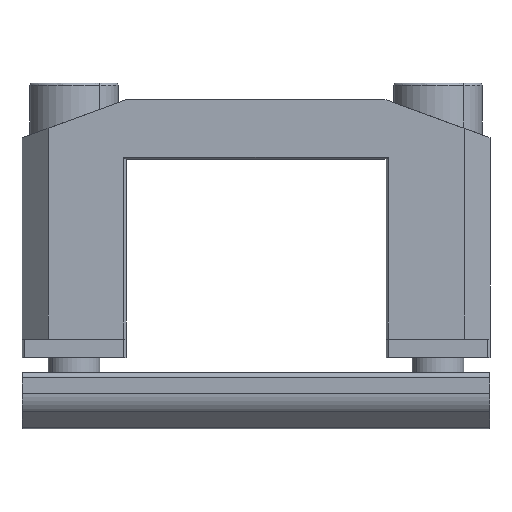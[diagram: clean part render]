
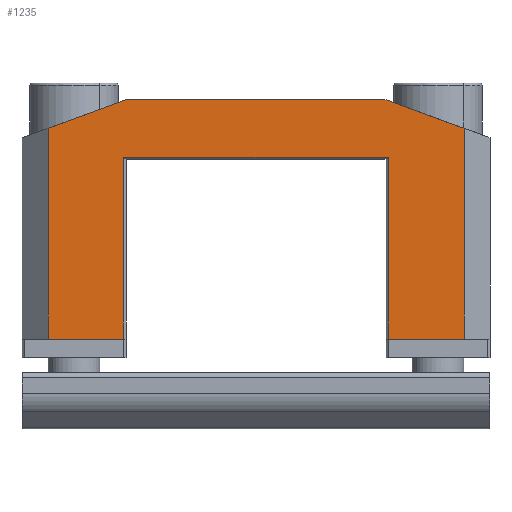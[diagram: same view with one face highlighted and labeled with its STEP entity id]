
A CAD part, front view. The second image highlights one B-rep face of the part: STEP entity #1235.
In plain terms, the highlighted planar face has unit normal (0, -1, 0).
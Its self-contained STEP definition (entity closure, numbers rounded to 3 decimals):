
#26 = ORIENTED_EDGE ( 'NONE', *, *, #1216, .F. ) ;
#703 = VERTEX_POINT ( 'NONE', #7919 ) ;
#866 = CARTESIAN_POINT ( 'NONE',  ( -39.171, 22.779, -10.6 ) ) ;
#880 = EDGE_CURVE ( 'NONE', #13790, #8048, #17649, .T. ) ;
#1216 = EDGE_CURVE ( 'NONE', #4108, #25195, #2591, .T. ) ;
#1235 = ADVANCED_FACE ( 'NONE', ( #7293 ), #9488, .T. ) ;
#1581 = ORIENTED_EDGE ( 'NONE', *, *, #10336, .T. ) ;
#1619 = CARTESIAN_POINT ( 'NONE',  ( -42.971, 22.779, 12.4 ) ) ;
#1776 = CARTESIAN_POINT ( 'NONE',  ( -13.771, 22.779, 6.9 ) ) ;
#2321 = LINE ( 'NONE', #25939, #7657 ) ;
#2330 = CARTESIAN_POINT ( 'NONE',  ( -26.471, 22.779, -10.6 ) ) ;
#2411 = CARTESIAN_POINT ( 'NONE',  ( -6.471, 22.779, 9.67 ) ) ;
#2469 = DIRECTION ( 'NONE',  ( 0., 0., -1. ) ) ;
#2509 = VERTEX_POINT ( 'NONE', #866 ) ;
#2591 = LINE ( 'NONE', #16278, #12640 ) ;
#2606 = ORIENTED_EDGE ( 'NONE', *, *, #20682, .T. ) ;
#2853 = VECTOR ( 'NONE', #16366, 1000. ) ;
#3041 = CARTESIAN_POINT ( 'NONE',  ( -6.471, 22.779, -10.6 ) ) ;
#3908 = CARTESIAN_POINT ( 'NONE',  ( -46.471, 22.779, -0.404 ) ) ;
#3924 = LINE ( 'NONE', #6677, #8648 ) ;
#4084 = EDGE_CURVE ( 'NONE', #8048, #25195, #5193, .T. ) ;
#4108 = VERTEX_POINT ( 'NONE', #21184 ) ;
#4307 = ORIENTED_EDGE ( 'NONE', *, *, #4084, .T. ) ;
#4974 = DIRECTION ( 'NONE',  ( 0., -1., 0. ) ) ;
#5193 = LINE ( 'NONE', #9110, #15854 ) ;
#5262 = LINE ( 'NONE', #3908, #9943 ) ;
#5381 = VERTEX_POINT ( 'NONE', #1776 ) ;
#5570 = VECTOR ( 'NONE', #12139, 1000. ) ;
#5664 = LINE ( 'NONE', #16497, #10338 ) ;
#5937 = DIRECTION ( 'NONE',  ( 0., 0., -1. ) ) ;
#6180 = DIRECTION ( 'NONE',  ( 1., 0., 0. ) ) ;
#6231 = CARTESIAN_POINT ( 'NONE',  ( -39.171, 22.779, 6.9 ) ) ;
#6389 = ORIENTED_EDGE ( 'NONE', *, *, #19115, .F. ) ;
#6677 = CARTESIAN_POINT ( 'NONE',  ( -43.971, 22.779, 10.58 ) ) ;
#7293 = FACE_OUTER_BOUND ( 'NONE', #10181, .T. ) ;
#7327 = VERTEX_POINT ( 'NONE', #17189 ) ;
#7657 = VECTOR ( 'NONE', #23859, 1000. ) ;
#7919 = CARTESIAN_POINT ( 'NONE',  ( -46.471, 22.779, -10.6 ) ) ;
#8048 = VERTEX_POINT ( 'NONE', #2411 ) ;
#8636 = CARTESIAN_POINT ( 'NONE',  ( -40.471, 22.779, -10.6 ) ) ;
#8643 = EDGE_CURVE ( 'NONE', #7327, #4108, #3924, .T. ) ;
#8648 = VECTOR ( 'NONE', #14747, 1000. ) ;
#8658 = ORIENTED_EDGE ( 'NONE', *, *, #880, .T. ) ;
#8911 = ORIENTED_EDGE ( 'NONE', *, *, #14088, .T. ) ;
#9110 = CARTESIAN_POINT ( 'NONE',  ( -39.579, 22.779, 21.72 ) ) ;
#9468 = CARTESIAN_POINT ( 'NONE',  ( -13.771, 22.779, -10.6 ) ) ;
#9488 = PLANE ( 'NONE',  #17503 ) ;
#9943 = VECTOR ( 'NONE', #5937, 1000. ) ;
#10181 = EDGE_LOOP ( 'NONE', ( #4307, #26, #15025, #18209, #20287, #6389, #2606, #1581, #8911, #8658 ) ) ;
#10336 = EDGE_CURVE ( 'NONE', #5381, #21622, #5664, .T. ) ;
#10338 = VECTOR ( 'NONE', #2469, 1000. ) ;
#10655 = CARTESIAN_POINT ( 'NONE',  ( -6.471, 22.779, 0.9 ) ) ;
#10781 = VECTOR ( 'NONE', #14698, 1000. ) ;
#11041 = DIRECTION ( 'NONE',  ( -0.94, 0., 0.342 ) ) ;
#12139 = DIRECTION ( 'NONE',  ( 0., 0., -1. ) ) ;
#12339 = VECTOR ( 'NONE', #12633, 1000. ) ;
#12387 = EDGE_CURVE ( 'NONE', #7327, #703, #5262, .T. ) ;
#12633 = DIRECTION ( 'NONE',  ( 0., 0., 1. ) ) ;
#12640 = VECTOR ( 'NONE', #6180, 1000. ) ;
#13014 = VERTEX_POINT ( 'NONE', #6231 ) ;
#13790 = VERTEX_POINT ( 'NONE', #3041 ) ;
#14088 = EDGE_CURVE ( 'NONE', #21622, #13790, #18206, .T. ) ;
#14698 = DIRECTION ( 'NONE',  ( 1., 0., 0. ) ) ;
#14747 = DIRECTION ( 'NONE',  ( 0.94, 0., 0.342 ) ) ;
#15025 = ORIENTED_EDGE ( 'NONE', *, *, #8643, .F. ) ;
#15298 = CARTESIAN_POINT ( 'NONE',  ( -13.971, 22.779, 12.4 ) ) ;
#15854 = VECTOR ( 'NONE', #11041, 1000. ) ;
#16127 = LINE ( 'NONE', #8636, #10781 ) ;
#16246 = LINE ( 'NONE', #22083, #5570 ) ;
#16278 = CARTESIAN_POINT ( 'NONE',  ( -26.471, 22.779, 12.4 ) ) ;
#16366 = DIRECTION ( 'NONE',  ( 1., 0., 0. ) ) ;
#16497 = CARTESIAN_POINT ( 'NONE',  ( -13.771, 22.779, 0.9 ) ) ;
#17104 = EDGE_CURVE ( 'NONE', #703, #2509, #16127, .T. ) ;
#17189 = CARTESIAN_POINT ( 'NONE',  ( -46.471, 22.779, 9.67 ) ) ;
#17503 = AXIS2_PLACEMENT_3D ( 'NONE', #1619, #4974, #24949 ) ;
#17649 = LINE ( 'NONE', #10655, #12339 ) ;
#18206 = LINE ( 'NONE', #2330, #2853 ) ;
#18209 = ORIENTED_EDGE ( 'NONE', *, *, #12387, .T. ) ;
#19115 = EDGE_CURVE ( 'NONE', #13014, #2509, #16246, .T. ) ;
#20287 = ORIENTED_EDGE ( 'NONE', *, *, #17104, .T. ) ;
#20682 = EDGE_CURVE ( 'NONE', #13014, #5381, #2321, .T. ) ;
#21184 = CARTESIAN_POINT ( 'NONE',  ( -38.971, 22.779, 12.4 ) ) ;
#21622 = VERTEX_POINT ( 'NONE', #9468 ) ;
#22083 = CARTESIAN_POINT ( 'NONE',  ( -39.171, 22.779, -1.797 ) ) ;
#23859 = DIRECTION ( 'NONE',  ( 1., 0., 0. ) ) ;
#24949 = DIRECTION ( 'NONE',  ( 0., 0., -1. ) ) ;
#25195 = VERTEX_POINT ( 'NONE', #15298 ) ;
#25939 = CARTESIAN_POINT ( 'NONE',  ( -26.471, 22.779, 6.9 ) ) ;
